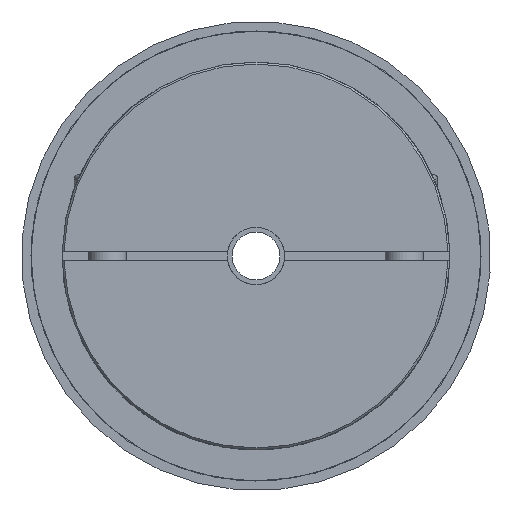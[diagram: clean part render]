
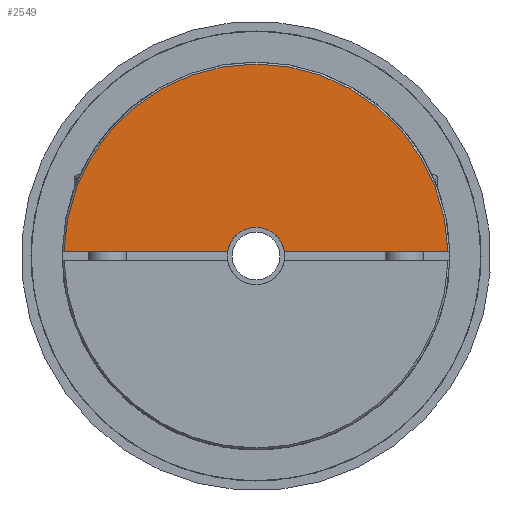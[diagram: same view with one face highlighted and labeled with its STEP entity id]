
A CAD part, left-side view. The second image highlights one B-rep face of the part: STEP entity #2549.
In plain terms, the highlighted planar face has unit normal (-1, 0, 0) as drawn and (1, 0, 0) by its records, which use the part's own axes.
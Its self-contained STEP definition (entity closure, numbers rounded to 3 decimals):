
#2549 = ADVANCED_FACE( '', ( #3536 ), #3537, .F. );
#3536 = FACE_OUTER_BOUND( '', #5144, .T. );
#3537 = PLANE( '', #5145 );
#5144 = EDGE_LOOP( '', ( #5821, #5822, #5823, #5824 ) );
#5145 = AXIS2_PLACEMENT_3D( '', #5825, #5826, #5827 );
#5821 = ORIENTED_EDGE( '', *, *, #6705, .T. );
#5822 = ORIENTED_EDGE( '', *, *, #6721, .T. );
#5823 = ORIENTED_EDGE( '', *, *, #6722, .T. );
#5824 = ORIENTED_EDGE( '', *, *, #6723, .T. );
#5825 = CARTESIAN_POINT( '', ( 13.5, 0., 3. ) );
#5826 = DIRECTION( '', ( -1., 0., 0. ) );
#5827 = DIRECTION( '', ( 0., 0., 1. ) );
#6705 = EDGE_CURVE( '', #8099, #8097, #8100, .T. );
#6721 = EDGE_CURVE( '', #8097, #8129, #8130, .F. );
#6722 = EDGE_CURVE( '', #8129, #8131, #8132, .T. );
#6723 = EDGE_CURVE( '', #8131, #8099, #8133, .T. );
#8097 = VERTEX_POINT( '', #8896 );
#8099 = VERTEX_POINT( '', #8901 );
#8100 = LINE( '', #8902, #8903 );
#8129 = VERTEX_POINT( '', #9071 );
#8130 = CIRCLE( '', #9072, 20.05 );
#8131 = VERTEX_POINT( '', #9073 );
#8132 = LINE( '', #9074, #9075 );
#8133 = CIRCLE( '', #9076, 3. );
#8896 = CARTESIAN_POINT( '', ( 13.5, 20.044, 0.5 ) );
#8901 = CARTESIAN_POINT( '', ( 13.5, 2.958, 0.5 ) );
#8902 = CARTESIAN_POINT( '', ( 13.5, 0., 0.5 ) );
#8903 = VECTOR( '', #9162, 1000. );
#9071 = CARTESIAN_POINT( '', ( 13.5, -20.044, 0.5 ) );
#9072 = AXIS2_PLACEMENT_3D( '', #9196, #9197, #9198 );
#9073 = CARTESIAN_POINT( '', ( 13.5, -2.958, 0.5 ) );
#9074 = CARTESIAN_POINT( '', ( 13.5, 0., 0.5 ) );
#9075 = VECTOR( '', #9199, 1000. );
#9076 = AXIS2_PLACEMENT_3D( '', #9200, #9201, #9202 );
#9162 = DIRECTION( '', ( 0., 1., 0. ) );
#9196 = CARTESIAN_POINT( '', ( 13.5, 0., 0. ) );
#9197 = DIRECTION( '', ( -1., 0., 0. ) );
#9198 = DIRECTION( '', ( 0., 0., 1. ) );
#9199 = DIRECTION( '', ( 0., 1., 0. ) );
#9200 = CARTESIAN_POINT( '', ( 13.5, 0., 0. ) );
#9201 = DIRECTION( '', ( -1., 0., 0. ) );
#9202 = DIRECTION( '', ( 0., 0., 1. ) );
